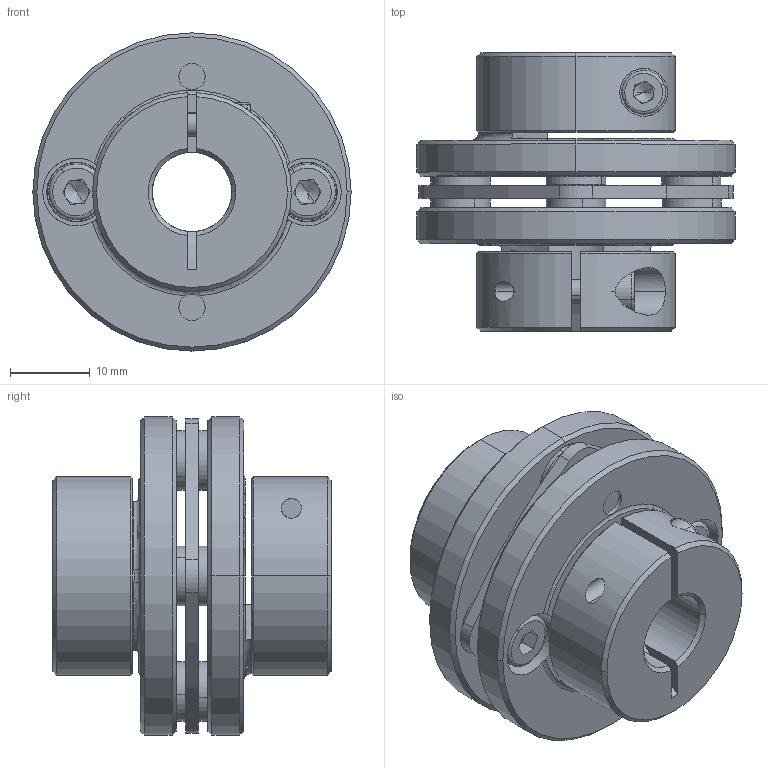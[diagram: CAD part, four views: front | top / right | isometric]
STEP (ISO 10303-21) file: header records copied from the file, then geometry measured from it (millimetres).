
FILE_DESCRIPTION (( 'STEP AP203' ), '1' );
FILE_NAME ('LE1-B-D40L35-10-10.STEP', '2021-11-01T02:10:08', ( '' ), ( '' ), 'SwSTEP 2.0', 'SolidWorks 2018', '' );
FILE_SCHEMA (( 'CONFIG_CONTROL_DESIGN' ));
Length unit declared in the file: millimetre
Products named in the file (1): LE1-B-D40L35-10-10
Bounding box: 40 x 35 x 40 mm (x, y, z)
Volume: 19618.8 mm3; surface area: 12709.1 mm2
Topology: 1 solids, 13 shells, 423 faces, 1021 edges, 630 vertices
Faces by surface type: cylinder 149, plane 140, cone 114, torus 18, bspline 2
Entity records: 12766 total; most frequent: CARTESIAN_POINT 2459, DIRECTION 2335, ORIENTED_EDGE 2018, EDGE_CURVE 1009, AXIS2_PLACEMENT_3D 952, VERTEX_POINT 630, CIRCLE 530, EDGE_LOOP 491
